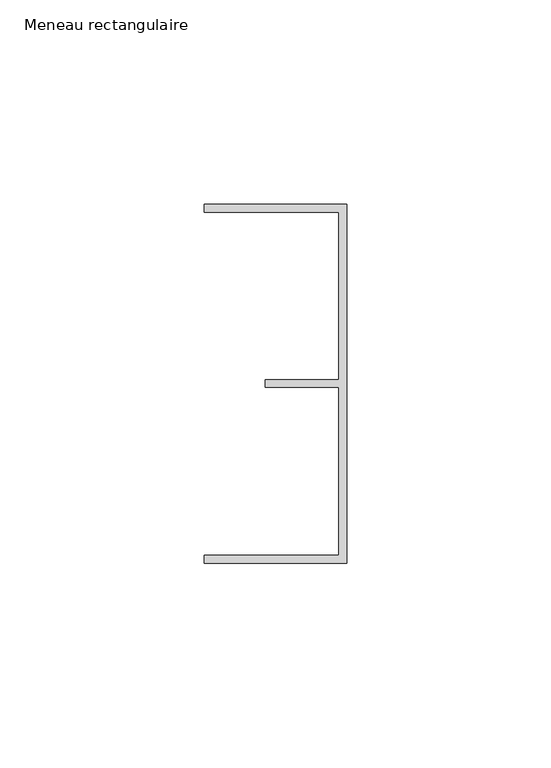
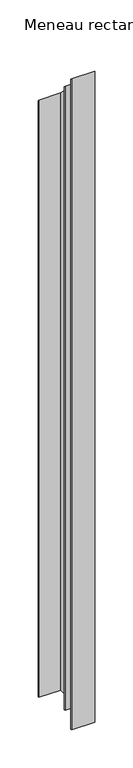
"""IFC4 building model written with IfcOpenShell, lengths in millimetres: member geometry, Meneau rectangulaire : LISSERIE_PLAFOND_COIFFANTE 94-KLP00-P80-SD20ALU."""

import ifcopenshell
import ifcopenshell.guid

model = None  # the IFC model being written
_history = None  # IfcOwnerHistory: only IFC2X3 demands one
_inside = {}  # id of a spatial element -> (the spatial element, [elements in it])
_under = {}  # id of a project, library or spatial element -> (it, [spatial elements below it])
_declared = {}  # id of a project -> (the project, [libraries it declares])
_typed = {}  # id of a type object -> (the type object, [elements of that type])
_made_of = {}  # id of a material, layer set ... -> (it, [elements and type objects made of it])


def new_model(schema):
    """Start an empty IFC model of exactly this schema.

    Asked for "IFC4X3", IfcOpenShell would pick the latest addendum, in which some entities
    have other attributes; the version numbers below select the first issue.
    IFC2X3 requires an IfcOwnerHistory on every rooted entity: one is made here for all.
    """
    global model, _history
    if schema == "IFC4X3":
        model = ifcopenshell.file(schema_version=(4, 3, 0, 0))
    else:
        model = ifcopenshell.file(schema=schema)
    _inside.clear()
    _under.clear()
    _declared.clear()
    _typed.clear()
    _made_of.clear()
    _history = None
    if model.schema == "IFC2X3":
        org = make("IfcOrganization", Name="unknown")
        user = make(
            "IfcPersonAndOrganization",
            ThePerson=make("IfcPerson", FamilyName="unknown"),
            TheOrganization=org,
        )
        app = make(
            "IfcApplication",
            ApplicationDeveloper=org,
            Version="unknown",
            ApplicationFullName="unknown",
            ApplicationIdentifier="unknown",
        )
        _history = make(
            "IfcOwnerHistory",
            OwningUser=user,
            OwningApplication=app,
            ChangeAction="ADDED",
            CreationDate=0,
        )
    return model


def make(cls, **values):
    """One entity of the class cls with the attributes given. An attribute that is None is left unset."""
    return model.create_entity(
        cls, **{name: value for name, value in values.items() if value is not None}
    )


def rooted(cls, **values):
    """An entity with a GlobalId (a new one), such as an element, a storey or a relation."""
    return make(cls, GlobalId=ifcopenshell.guid.new(), OwnerHistory=_history, **values)


def si_unit(unit_type, name, prefix=None):
    """IfcSIUnit, for example si_unit("LENGTHUNIT", "METRE", prefix="MILLI")."""
    return make("IfcSIUnit", UnitType=unit_type, Prefix=prefix, Name=name)


def assignment(units):
    """IfcUnitAssignment: the units of a project."""
    return None if units is None else make("IfcUnitAssignment", Units=units)


def point(xyz):
    """IfcCartesianPoint."""
    return None if xyz is None else make("IfcCartesianPoint", Coordinates=xyz)


def direction(xyz):
    """IfcDirection."""
    return None if xyz is None else make("IfcDirection", DirectionRatios=xyz)


def frame(location, z_axis=None, x_axis=None):
    """IfcAxis2Placement3D, a coordinate frame: its origin and axes. An axis left out is left unset."""
    return make(
        "IfcAxis2Placement3D",
        Location=point(location),
        Axis=direction(z_axis),
        RefDirection=direction(x_axis),
    )


def origin():
    """The frame at (0, 0, 0) with its axes left unset."""
    return frame((0.0, 0.0, 0.0))


def place(relative_to, where):
    """IfcLocalPlacement: puts the frame where relative to a parent placement (None: the world)."""
    return make(
        "IfcLocalPlacement", PlacementRelTo=relative_to, RelativePlacement=where
    )


def context(
    kind, dimensions, precision=None, world=None, true_north=None, identifier=None
):
    """IfcGeometricRepresentationContext, for example the 3D "Model" context."""
    return make(
        "IfcGeometricRepresentationContext",
        ContextIdentifier=identifier,
        ContextType=kind,
        CoordinateSpaceDimension=dimensions,
        Precision=precision,
        WorldCoordinateSystem=world,
        TrueNorth=true_north,
    )


def project(units=None, contexts=None):
    """IfcProject with its units and contexts."""
    return rooted(
        "IfcProject",
        Name="project",
        RepresentationContexts=contexts,
        UnitsInContext=assignment(units),
    )


def spatial(cls, under=None, at=None, **own):
    """A site, building, storey or space (cls), placed at a placement, below another one or the project."""
    s = rooted(cls, ObjectPlacement=at, **own)
    if under is not None:
        _under.setdefault(under.id(), (under, []))[1].append(s)
    return s


def faces_of(points, faces, orient=None, outer=None):
    """IfcFace entities. A face is a list of loops; a loop is a list of indices into points, from 0.

    orient and outer hold one flag for each loop. By default every Orientation is true, the
    first loop of a face is its IfcFaceOuterBound and the others are IfcFaceBound.
    """
    made = []
    for i, loops in enumerate(faces):
        bounds = []
        for j, loop in enumerate(loops):
            is_outer = j == 0 if outer is None else outer[i][j]
            bounds.append(
                make(
                    "IfcFaceOuterBound" if is_outer else "IfcFaceBound",
                    Bound=make("IfcPolyLoop", Polygon=[points[k] for k in loop]),
                    Orientation=True if orient is None else orient[i][j],
                )
            )
        made.append(make("IfcFace", Bounds=bounds))
    return made


def faceted_brep(points, faces, orient=None, outer=None, voids=None):
    """IfcFacetedBrep: a solid bounded by flat faces; with voids (closed shells), ...WithVoids."""
    shared = [point(p) for p in points]
    hull = make("IfcClosedShell", CfsFaces=faces_of(shared, faces, orient, outer))
    if voids is None:
        return make("IfcFacetedBrep", Outer=hull)
    return make(
        "IfcFacetedBrepWithVoids",
        Outer=hull,
        Voids=[
            make(cls, CfsFaces=faces_of(shared, fs, o, b)) for cls, fs, o, b in voids
        ],
    )


def shape(context_of_items, identifier, shape_type, items):
    """IfcShapeRepresentation: the items that make up one representation, for example the "Body"."""
    return make(
        "IfcShapeRepresentation",
        ContextOfItems=context_of_items,
        RepresentationIdentifier=identifier,
        RepresentationType=shape_type,
        Items=items,
    )


def source(mapping_origin, context_of_items, identifier, shape_type, items):
    """IfcRepresentationMap: a shape defined once, which mapped items show again and again."""
    return make(
        "IfcRepresentationMap",
        MappingOrigin=mapping_origin,
        MappedRepresentation=shape(context_of_items, identifier, shape_type, items),
    )


def transform(
    local_origin,
    x_axis=None,
    y_axis=None,
    z_axis=None,
    scale=None,
    scale2=None,
    scale3=None,
    uniform=True,
):
    """IfcCartesianTransformationOperator3D, or its non-uniform kind. x_axis, y_axis, z_axis: its Axis1, 2, 3."""
    if uniform:
        return make(
            "IfcCartesianTransformationOperator3D",
            Axis1=direction(x_axis),
            Axis2=direction(y_axis),
            LocalOrigin=point(local_origin),
            Scale=scale,
            Axis3=direction(z_axis),
        )
    return make(
        "IfcCartesianTransformationOperator3DnonUniform",
        Axis1=direction(x_axis),
        Axis2=direction(y_axis),
        LocalOrigin=point(local_origin),
        Scale=scale,
        Axis3=direction(z_axis),
        Scale2=scale2,
        Scale3=scale3,
    )


def mapped(mapping_source, mapping_target):
    """IfcMappedItem: shows the shape of a source again, moved by a transform."""
    return make(
        "IfcMappedItem", MappingSource=mapping_source, MappingTarget=mapping_target
    )


def made_of(thing, what):
    """Note that an element or type object is made of a material, layer set ...; save() writes the relation."""
    if what is not None:
        _made_of.setdefault(what.id(), (what, []))[1].append(thing)
    return thing


def element(
    cls,
    number,
    at=None,
    inside=None,
    cuts=None,
    type_object=None,
    material=None,
    context=None,
    identifier="Body",
    shape_type=None,
    held_by="IfcProductDefinitionShape",
    body=None,
    shapes=None,
    **own,
):
    """One element of the class cls, such as IfcWall. Its Tag is "e" and its number.

    at: its placement. inside: the storey or other place that contains it. cuts: it is an
    opening in that element (IfcRelVoidsElement). A single representation is given by context,
    identifier, shape_type and body (its items); several are given by shapes. held_by: the class
    of the entity that holds the representations. save() writes the other relations.
    """
    e = rooted(cls, Tag="e%d" % number, ObjectPlacement=at, **own)
    if body is not None:
        shapes = [shape(context, identifier, shape_type, body)]
    if shapes is not None:
        e.Representation = make(held_by, Representations=shapes)
    if inside is not None:
        _inside.setdefault(inside.id(), (inside, []))[1].append(e)
    if cuts is not None:
        rooted(
            "IfcRelVoidsElement", RelatingBuildingElement=cuts, RelatedOpeningElement=e
        )
    if type_object is not None:
        _typed.setdefault(type_object.id(), (type_object, []))[1].append(e)
    return made_of(e, material)


def aggregate(whole, parts):
    """IfcRelAggregates: a whole, such as a stair, and the parts it consists of."""
    return rooted("IfcRelAggregates", RelatingObject=whole, RelatedObjects=parts)


def save(model, path):
    """Write the relations noted so far, then the file.

    IfcRelAggregates (storeys below a building ...), IfcRelContainedInSpatialStructure (elements
    in a storey), IfcRelDefinesByType, IfcRelAssociatesMaterial and IfcRelDeclares: one each for
    every whole, place, type object, material and project.
    """
    for whole, parts in _under.values():
        aggregate(whole, parts)
    for where, things in _inside.values():
        rooted(
            "IfcRelContainedInSpatialStructure",
            RelatedElements=things,
            RelatingStructure=where,
        )
    for kind, things in _typed.values():
        rooted("IfcRelDefinesByType", RelatedObjects=things, RelatingType=kind)
    for what, things in _made_of.values():
        rooted("IfcRelAssociatesMaterial", RelatedObjects=things, RelatingMaterial=what)
    for by, libraries in _declared.values():
        rooted("IfcRelDeclares", RelatingContext=by, RelatedDefinitions=libraries)
    model.write(path)


def meneau_rectangulaire_8f6b654b(model_context):
    return source(origin(), model_context, "Body", "Brep", [
        faceted_brep([(0.0, 44.0, -1000.4), (0.0, -44.0, -1000.4), (-35.0, -44.0, -1000.4), (-35.0, -42.0, -1000.4), (-2.0, -42.0, -1000.4), (-2.0, -0.9316478, -1000.4), (-20.0, -0.9316478, -1000.4), (-20.0, 0.9316478, -1000.4), (-2.0, 0.9316478, -1000.4), (-2.0, 42.0, -1000.4), (-35.0, 42.0, -1000.4), (-35.0, 44.0, -1000.4), (-35.0, 44.0, -44.0), (0.0, 44.0, -44.0), (-35.0, 42.0, -42.0), (-2.0, 42.0, -42.0), (-2.0, 0.9316478, -0.9316478), (-20.0, 0.9316478, -0.9316478), (-20.0, -0.9316478, 0.9316478), (-2.0, -0.9316478, 0.9316478), (-2.0, -42.0, 42.0), (-35.0, -42.0, 42.0), (-35.0, -44.0, 44.0), (0.0, -44.0, 44.0)], [[[0, 1, 2, 3, 4, 5, 6, 7, 8, 9, 10, 11]], [[12, 13, 0, 11]], [[14, 12, 11, 10]], [[15, 14, 10, 9]], [[16, 15, 9, 8]], [[17, 16, 8, 7]], [[18, 17, 7, 6]], [[19, 18, 6, 5]], [[20, 19, 5, 4]], [[21, 20, 4, 3]], [[22, 21, 3, 2]], [[23, 22, 2, 1]], [[13, 23, 1, 0]], [[13, 12, 14, 15, 16, 17, 18, 19, 20, 21, 22, 23]]]),
    ])


if __name__ == "__main__":
    model = new_model("IFC4")
    model_context = context("Model", 3, world=origin())
    ifc_project = project(units=[si_unit("LENGTHUNIT", "METRE", prefix="MILLI")], contexts=[model_context])
    site = spatial("IfcSite", under=ifc_project)
    building = spatial("IfcBuilding", under=site)
    placement = place(None, origin())
    meneau_rectangulaire_shape = meneau_rectangulaire_8f6b654b(model_context)
    element("IfcMember", 1, ObjectType="Meneau rectangulaire : LISSERIE_PLAFOND_COIFFANTE 94-KLP00-P80-SD20ALU", at=placement, inside=building, context=model_context, shape_type="MappedRepresentation", body=[
        mapped(meneau_rectangulaire_shape, transform((0.0, 0.0, 0.0), x_axis=(1.0, 0.0, 0.0), y_axis=(0.0, 1.0, 0.0), z_axis=(0.0, 0.0, 1.0))),
    ])
    save(model, "model.ifc")
